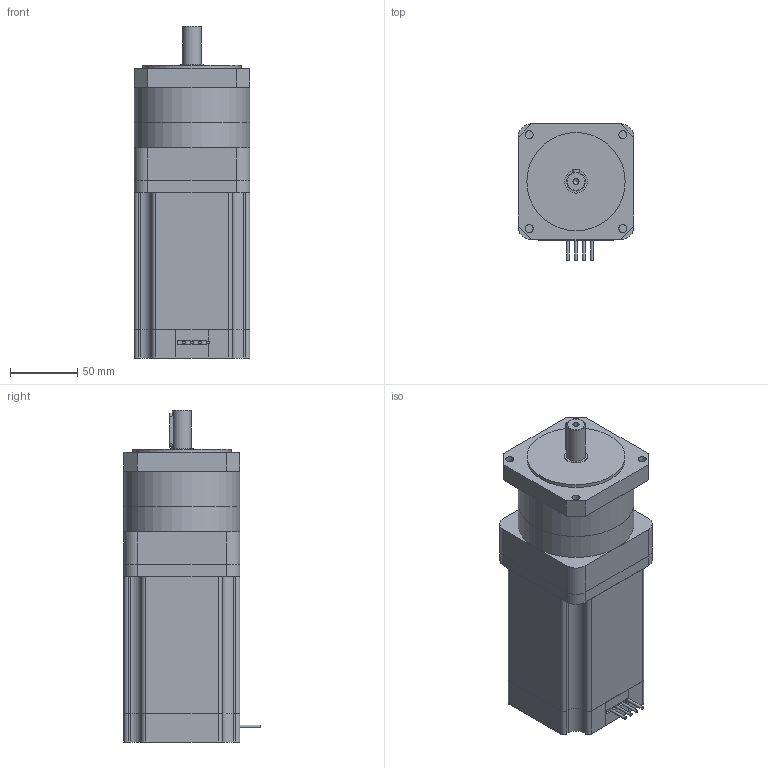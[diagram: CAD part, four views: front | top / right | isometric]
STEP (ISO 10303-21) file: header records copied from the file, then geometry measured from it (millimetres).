
FILE_DESCRIPTION(/* description */ (''),/* implementation_level */ '2;1');
FILE_NAME(/* name */ 'T86PG008-D60-04132.stp',/* time_stamp */ '2018-08-29T15:08:34+08:00',/* author */ (''),/* organization */ (''),/* preprocessor_version */ 'ST-DEVELOPER v11',/* originating_system */ 'SIEMENS UGS NX 6.0',/* authorisation */ '');
FILE_SCHEMA (('CONFIG_CONTROL_DESIGN'));
Length unit declared in the file: millimetre
Products named in the file (1): T86PG003-D60-04132
Bounding box: 86 x 101 x 246.5 mm (x, y, z)
Volume: 1448223 mm3; surface area: 152551.9 mm2
Topology: 6 solids, 6 shells, 126 faces, 316 edges, 210 vertices
Faces by surface type: plane 76, cylinder 48, cone 1, torus 1
Full cylindrical faces by diameter (mm): 2 x4, 4.5 x1, 6 x4, 14 x1, 17 x1, 73 x1, 86 x2
Entity records: 3792 total; most frequent: CARTESIAN_POINT 684, DIRECTION 644, ORIENTED_EDGE 586, EDGE_CURVE 293, AXIS2_PLACEMENT_3D 226, VERTEX_POINT 204, LINE 192, VECTOR 192
